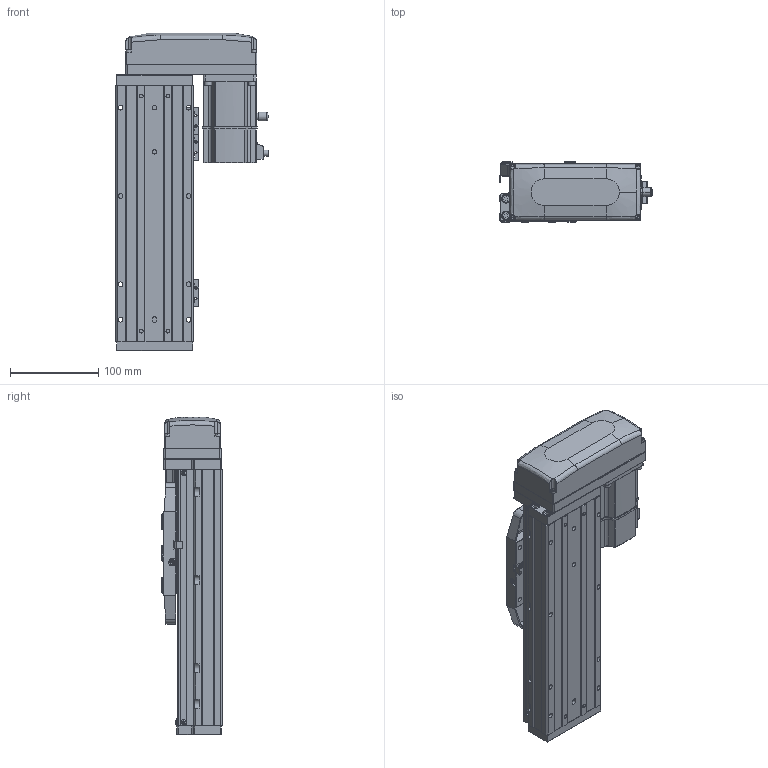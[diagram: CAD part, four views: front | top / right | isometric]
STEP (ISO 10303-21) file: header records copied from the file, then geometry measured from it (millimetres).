
FILE_DESCRIPTION (( 'STEP AP203' ), '1' );
FILE_NAME ('CTHA86-100-BL-M20-C4L.step', '2022-04-26T00:49:36', ( '微软用户' ), ( '微软中国' ), 'SwSTEP 2.0', 'SolidWorks 2020', '' );
FILE_SCHEMA (( 'CONFIG_CONTROL_DESIGN' ));
Length unit declared in the file: millimetre
Products named in the file (21): GBT 70.1-M3×16; GBT 70.3-M3℅6; KTHA86-001_290; EE_SX911P_R; GBT 70.1-M3℅6; CTHA86-015-1_CTHA86-015-2; CTHA60-017; CTHA60-016; CTHA86-033; CTHA60-021; _X2_4E0983F1_X0_200W_1; CTHA86-100-BL-M20-C4L; GBT77-2000 M3×3; CTHA86-002; KTHA86-004; GBT 70.1-M3×20; CTHA86-031; KTHA86-005; GBT70.1 M5℅16; CTHA86-030; GB¨uT 70.2-M3¡Á5_M3¡Á6
Assembly tree (66 placements, depth 2):
  CTHA86-100-BL-M20-C4L
    KTHA86-001_290
    KTHA86-004
    KTHA86-005
    GB¨uT 70.2-M3¡Á5_M3¡Á6  x10
    EE_SX911P_R  x3
    CTHA60-017  x3
    CTHA60-021  x2
    GBT77-2000 M3×3  x6
    GBT 70.1-M3×20
    GBT70.1 M5℅16  x14
    GBT 70.1-M3×16  x5
    GBT 70.1-M3℅6  x6
    CTHA60-016  x2
    _X2_4E0983F1_X0_200W_1
    CTHA86-002
    CTHA86-031
    CTHA86-030  x2
    GBT 70.3-M3℅6  x4
    CTHA86-015-1_CTHA86-015-2
    CTHA86-033
Bounding box: 172.7 x 68 x 359 mm (x, y, z)
Volume: 1897104.1 mm3; surface area: 351028.9 mm2
Topology: 68 solids, 68 shells, 2686 faces, 6372 edges, 3916 vertices
Faces by surface type: plane 1403, cylinder 693, cone 359, torus 132, bspline 75, sphere 24
Entity records: 45851 total; most frequent: CARTESIAN_POINT 8947, DIRECTION 7079, ORIENTED_EDGE 6844, EDGE_CURVE 3422, AXIS2_PLACEMENT_3D 2432, LINE 2215, VECTOR 2215, VERTEX_POINT 2148
